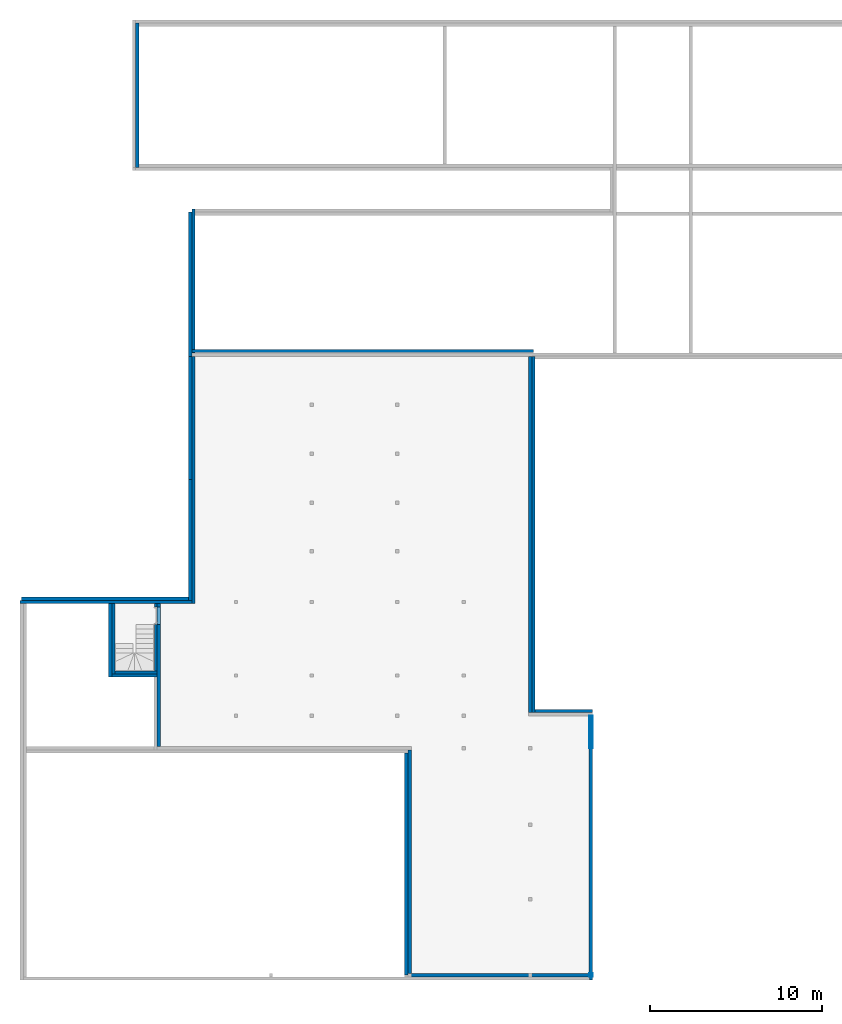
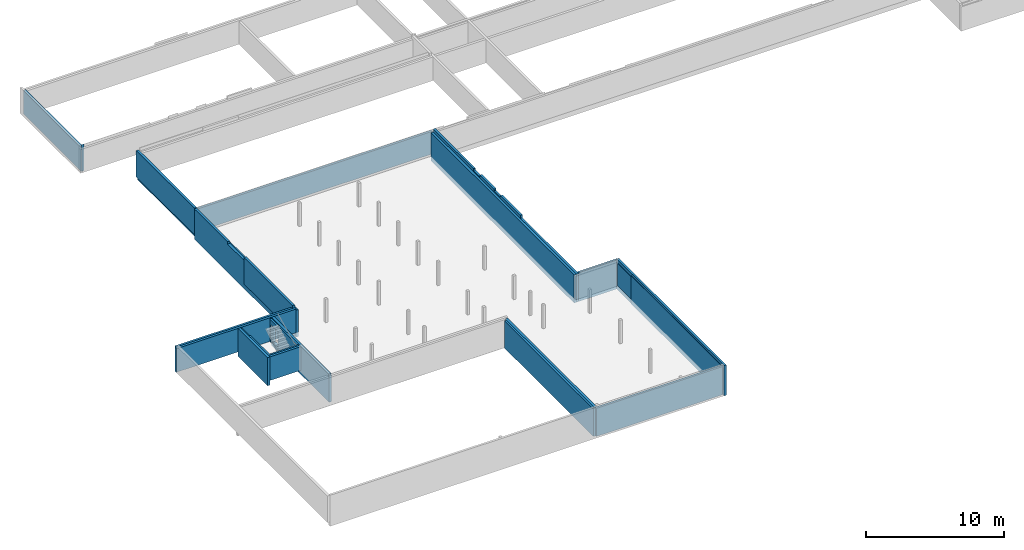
# One storey, part 2 of 6: 23 walls, 7 openings.
"""IFC2X3 building model written with IfcOpenShell, lengths in centimetres."""

from ifc_helpers import new_model, entity, si_unit, converted_unit, derived_unit, direction, frame, frame_2d, origin, place, context, subcontext, project, spatial, polyline, rectangle, extrude, clip, bounded_halfspace, faceted_brep, material, layer, layer_set, layer_usage, type_object, element, save


model = new_model("IFC2X3")

# Units and contexts
model_context = context("Model", 3, precision=0.001, world=origin(), true_north=direction((6.12303176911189e-17, 1.0)))
body_context = subcontext(model_context, "Body", "Model", "MODEL_VIEW")
ifc_project = project(units=[si_unit("LENGTHUNIT", "METRE", prefix="CENTI"), si_unit("AREAUNIT", "SQUARE_METRE"), si_unit("VOLUMEUNIT", "CUBIC_METRE"), converted_unit("PLANEANGLEUNIT", "DEGREE", entity("IfcRatioMeasure", 0.0174532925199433), si_unit("PLANEANGLEUNIT", "RADIAN"), dimensions=[0, 0, 0, 0, 0, 0, 0]), si_unit("MASSUNIT", "GRAM", prefix="KILO"), derived_unit("MASSDENSITYUNIT", [(si_unit("MASSUNIT", "GRAM", prefix="KILO"), 1), (si_unit("LENGTHUNIT", "METRE"), -3)]), si_unit("TIMEUNIT", "SECOND"), si_unit("FREQUENCYUNIT", "HERTZ"), si_unit("THERMODYNAMICTEMPERATUREUNIT", "DEGREE_CELSIUS"), derived_unit("THERMALTRANSMITTANCEUNIT", [(si_unit("MASSUNIT", "GRAM", prefix="KILO"), 1), (si_unit("THERMODYNAMICTEMPERATUREUNIT", "KELVIN"), -1), (si_unit("TIMEUNIT", "SECOND"), -3)]), derived_unit("VOLUMETRICFLOWRATEUNIT", [(si_unit("LENGTHUNIT", "METRE"), 3), (si_unit("TIMEUNIT", "SECOND"), -1)]), si_unit("ELECTRICCURRENTUNIT", "AMPERE"), si_unit("ELECTRICVOLTAGEUNIT", "VOLT"), si_unit("POWERUNIT", "WATT"), si_unit("FORCEUNIT", "NEWTON", prefix="KILO"), si_unit("ILLUMINANCEUNIT", "LUX"), si_unit("LUMINOUSFLUXUNIT", "LUMEN"), si_unit("LUMINOUSINTENSITYUNIT", "CANDELA"), derived_unit("USERDEFINED", [(si_unit("MASSUNIT", "GRAM", prefix="KILO"), -1), (si_unit("LENGTHUNIT", "METRE"), -2), (si_unit("TIMEUNIT", "SECOND"), 3), (si_unit("LUMINOUSFLUXUNIT", "LUMEN"), 1)]), derived_unit("LINEARVELOCITYUNIT", [(si_unit("LENGTHUNIT", "METRE"), 1), (si_unit("TIMEUNIT", "SECOND"), -1)]), si_unit("PRESSUREUNIT", "PASCAL"), derived_unit("USERDEFINED", [(si_unit("LENGTHUNIT", "METRE"), -2), (si_unit("MASSUNIT", "GRAM", prefix="KILO"), 1), (si_unit("TIMEUNIT", "SECOND"), -2)])], contexts=[model_context])

# Site, building, storey
site_placement = place(None, frame((-2781.94577612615, 7442.24238424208, 0.0)))
site = spatial("IfcSite", under=ifc_project, at=site_placement, Name="Default", CompositionType="ELEMENT")
building_placement = place(site_placement, origin())
building = spatial("IfcBuilding", under=site, at=building_placement, CompositionType="ELEMENT")
storey_placement = place(building_placement, frame((0.0, 0.0, -234.674140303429)))
storey = spatial("IfcBuildingStorey", under=building, at=storey_placement, Name="Vide Sanitaire", CompositionType="ELEMENT", Elevation=-234.674140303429)

# Wall
ifc_material_1 = material(Name="01 - Maçonnerie")
ifc_layer_1 = layer(ifc_material_1, 20.0)
ifc_layer_set_1 = layer_set([ifc_layer_1], Name="Mur de base:04 - Structure - béton - 20cm")
ifc_layer_usage_1 = layer_usage(ifc_layer_set_1, "AXIS2", "NEGATIVE", 10.0)
wall_type_1 = type_object("IfcWallType", Name="Mur de base:04 - Structure - béton - 20cm", PredefinedType="STANDARD", material=ifc_layer_set_1)
wall_1_placement = place(storey_placement, frame((-8911.93218005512, -1931.38903364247, -40.0), z_axis=(0.0, 0.0, 1.0), x_axis=(0.0, -1.0, 0.0)))
element("IfcWallStandardCase", 1, at=wall_1_placement, inside=storey, type_object=wall_type_1, material=ifc_layer_usage_1, Name="Mur de base:04 - Structure - béton - 20cm", ObjectType="Mur de base:04 - Structure - béton - 20cm", context=body_context, shape_type="Clipping", body=[
    clip(extrude(rectangle(XDim=2074.89, YDim=19.9999999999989, at=frame_2d((1037.445, -3.99680288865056e-14), x_axis=(-1.0, 0.0))), origin(), (0.0, 0.0, 1.0), 248.674140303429), bounded_halfspace(frame((1259.68999999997, -10.0, 248.674140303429), z_axis=(0.0, 0.0, -1.0), x_axis=(1.0, 0.0, 0.0)), True, frame((1259.68999999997, -10.0, 248.674140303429)), polyline([(0.0, 0.0), (815.200000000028, 0.0), (815.200000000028, 20.0), (0.0, 20.0), (0.0, 0.0)]))),
])

# Wall, opening
ifc_layer_usage_2 = layer_usage(ifc_layer_set_1, "AXIS2", "NEGATIVE", 10.0)
wall_2_placement = place(storey_placement, frame((-8558.98738089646, -4026.27903364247, 0.0), z_axis=(0.0, 0.0, 1.0), x_axis=(0.0, -1.0, 0.0)))
wall_2 = element("IfcWallStandardCase", 2, at=wall_2_placement, inside=storey, type_object=wall_type_1, material=ifc_layer_usage_2, Name="Mur de base:04 - Structure - béton - 20cm", ObjectType="Mur de base:04 - Structure - béton - 20cm", context=body_context, shape_type="SweptSolid", body=[
    extrude(rectangle(XDim=1520.22270076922, YDim=19.9999999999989, at=frame_2d((760.111350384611, -3.81916720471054e-14), x_axis=(-1.0, 0.0))), origin(), (0.0, 0.0, 1.0), 199.674140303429),
])
opening_1_placement = place(storey_placement, frame((-8558.98738089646, -4026.27903364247, 0.0), z_axis=(0.0, 0.0, 1.0), x_axis=(0.0, -1.0, 0.0)))
element("IfcOpeningElement", 3, at=opening_1_placement, cuts=wall_2, Name="Mur de base:04 - Structure - béton - 20cm:1", ObjectType="Opening", context=body_context, shape_type="SweptSolid", body=[
    extrude(rectangle(XDim=199.674140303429, YDim=20.0000000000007, at=frame_2d((0.0, 8.66862137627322e-13), x_axis=(1.0, 0.0))), frame((1500.22270076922, 0.0, 99.8370701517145), z_axis=(-1.0, 0.0, 0.0), x_axis=(0.0, 0.0, 1.0)), (0.0, 0.0, 1.0), 1311.00146098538),
])

# Walls
ifc_layer_usage_3 = layer_usage(ifc_layer_set_1, "AXIS2", "NEGATIVE", 10.0)
wall_3_placement = place(storey_placement, frame((-8568.98738089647, -5536.50173441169, -40.0), z_axis=(0.0, 0.0, 1.0), x_axis=(-1.0, 0.0, 0.0)))
element("IfcWallStandardCase", 4, at=wall_3_placement, inside=storey, type_object=wall_type_1, material=ifc_layer_usage_3, Name="Mur de base:04 - Structure - béton - 20cm", ObjectType="Mur de base:04 - Structure - béton - 20cm", context=body_context, shape_type="Clipping", body=[
    clip(extrude(rectangle(XDim=1055.9999999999, YDim=20.0000000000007, at=frame_2d((527.999999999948, -7.8159700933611e-14), x_axis=(-1.0, 0.0))), origin(), (0.0, 0.0, 1.0), 248.674140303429), bounded_halfspace(frame((0.0, -10.0, 248.674140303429), z_axis=(0.0, 0.0, -1.0), x_axis=(0.0, 1.0, 0.0)), True, frame((0.0, -10.0, 248.674140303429), z_axis=(0.0, 0.0, -1.0), x_axis=(0.0, 1.0, 0.0)), polyline([(0.0, 0.0), (20.0, 0.0), (20.0, 1056.0), (0.0, 1056.0), (0.0, 0.0)]))),
])
ifc_layer_usage_4 = layer_usage(ifc_layer_set_1, "AXIS2", "NEGATIVE", 10.0)
wall_4_placement = place(storey_placement, frame((-11884.3505746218, -3362.52180651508, 0.0)))
element("IfcWallStandardCase", 5, at=wall_4_placement, inside=storey, type_object=wall_type_1, material=ifc_layer_usage_4, Name="Mur de base:04 - Structure - béton - 20cm", ObjectType="Mur de base:04 - Structure - béton - 20cm", context=body_context, shape_type="Clipping", body=[
    clip(extrude(rectangle(XDim=1002.73752697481, YDim=19.9999999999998, at=frame_2d((501.368763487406, 4.52970994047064e-14), x_axis=(-1.0, 0.0))), origin(), (0.0, 0.0, 1.0), 208.674140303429), bounded_halfspace(frame((20.0, -10.0, 208.674140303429), z_axis=(0.0, 0.0, -1.0), x_axis=(0.0, -1.0, 0.0)), True, frame((20.0, -10.0, 208.674140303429)), polyline([(0.0, 0.0), (18.0, 0.0), (496.867766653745, 0.0), (516.867766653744, 0.0), (532.167766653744, 0.0), (762.167766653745, 0.0), (777.467766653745, 0.0), (797.467766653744, 0.0), (982.737526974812, 0.0), (982.737526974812, 20.0), (0.0, 20.0), (0.0, 0.0)]))),
])
ifc_layer_usage_5 = layer_usage(ifc_layer_set_1, "AXIS2", "NEGATIVE", 10.0)
wall_5_placement = place(storey_placement, frame((-10891.6130476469, -3352.52180651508, 0.0), z_axis=(0.0, 0.0, 1.0), x_axis=(0.0, 1.0, 0.0)))
element("IfcWallStandardCase", 6, at=wall_5_placement, inside=storey, type_object=wall_type_1, material=ifc_layer_usage_5, Name="Mur de base:04 - Structure - béton - 20cm", ObjectType="Mur de base:04 - Structure - béton - 20cm", context=body_context, shape_type="SweptSolid", body=[
    extrude(rectangle(XDim=702.742772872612, YDim=19.9999999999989, at=frame_2d((351.371386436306, -2.1405099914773e-13), x_axis=(-1.0, 0.0))), origin(), (0.0, 0.0, 1.0), 234.674140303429),
])
ifc_layer_usage_6 = layer_usage(ifc_layer_set_1, "AXIS2", "NEGATIVE", 10.0)
wall_6_placement = place(storey_placement, frame((-11200.6616968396, -830.048500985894, 0.0), z_axis=(0.0, 0.0, 1.0), x_axis=(0.0, 1.0, 0.0)))
element("IfcWallStandardCase", 7, at=wall_6_placement, inside=storey, type_object=wall_type_1, material=ifc_layer_usage_6, Name="Mur de base:04 - Structure - béton - 20cm", ObjectType="Mur de base:04 - Structure - béton - 20cm", context=body_context, shape_type="Clipping", body=[
    clip(clip(extrude(rectangle(XDim=840.048500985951, YDim=19.9999999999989, at=frame_2d((420.024250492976, 2.1316282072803e-14), x_axis=(-1.0, 0.0))), origin(), (0.0, 0.0, 1.0), 234.674140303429), bounded_halfspace(frame((1.3100000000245, 10.0, 208.674140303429), z_axis=(0.0, 0.0, -1.0), x_axis=(-1.0, 0.0, 0.0)), True, frame((1.3100000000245, 10.0, 208.674140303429), z_axis=(0.0, 0.0, -1.0), x_axis=(-1.0, 0.0, 0.0)), polyline([(0.0, 0.0), (-115.54850098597, 0.0), (-358.548500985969, 0.0), (-420.02425049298, 0.0), (-571.02425049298, 0.0), (-838.738500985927, 0.0), (-838.738500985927, -20.0), (-818.738500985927, -20.0), (-18.6899999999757, -20.0), (0.0, -20.0), (0.0, 0.0)]))), bounded_halfspace(frame((1.31000000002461, -10.0, 208.674140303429), z_axis=(-1.0, 0.0, 0.0), x_axis=(0.0, 0.0, 1.0)), True, frame((1.31000000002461, -10.0, 208.674140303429), z_axis=(-1.0, 0.0, 0.0), x_axis=(0.0, 0.0, 1.0)), polyline([(0.0, 0.0), (26.0, 0.0), (26.0, 20.0), (0.0, 20.0), (0.0, 0.0)]))),
])
ifc_layer_usage_7 = layer_usage(ifc_layer_set_1, "AXIS2", "NEGATIVE", 10.0)
wall_7_placement = place(storey_placement, frame((-11357.482807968, -3800.7196611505, -40.0), z_axis=(0.0, 0.0, 1.0), x_axis=(0.0, 1.0, 0.0)))
element("IfcWallStandardCase", 8, at=wall_7_placement, inside=storey, type_object=wall_type_1, material=ifc_layer_usage_7, Name="Mur de base:04 - Structure - béton - 20cm", ObjectType="Mur de base:04 - Structure - béton - 20cm", context=body_context, shape_type="Clipping", body=[
    clip(extrude(rectangle(XDim=428.197854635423, YDim=19.9999999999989, at=frame_2d((214.098927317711, 0.0), x_axis=(-1.0, 0.0))), origin(), (0.0, 0.0, 1.0), 248.674140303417), bounded_halfspace(frame((0.0, -10.0, 248.674140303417), z_axis=(0.0, 0.0, -1.0), x_axis=(-1.0, 0.0, 0.0)), True, frame((0.0, -10.0, 248.674140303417)), polyline([(0.0, 0.0), (20.0, 0.0), (428.197854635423, 0.0), (428.197854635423, 20.0), (0.0, 20.0), (0.0, 0.0)]))),
])
ifc_layer_usage_8 = layer_usage(ifc_layer_set_1, "AXIS2", "NEGATIVE", 10.0)
wall_8_placement = place(storey_placement, frame((-11086.882807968, -3790.7196611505, 0.0), z_axis=(0.0, 0.0, 1.0), x_axis=(-1.0, 0.0, 0.0)))
element("IfcWallStandardCase", 9, at=wall_8_placement, inside=storey, type_object=wall_type_1, material=ifc_layer_usage_8, Name="Mur de base:04 - Structure - béton - 20cm", ObjectType="Mur de base:04 - Structure - béton - 20cm", context=body_context, shape_type="Clipping", body=[
    clip(extrude(rectangle(XDim=260.599999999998, YDim=19.9999999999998, at=frame_2d((130.299999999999, -3.01980662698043e-14), x_axis=(-1.0, 0.0))), origin(), (0.0, 0.0, 1.0), 208.674140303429), bounded_halfspace(frame((0.0, -10.0, 208.674140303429), z_axis=(0.0, 0.0, -1.0), x_axis=(0.0, 1.0, 0.0)), True, frame((0.0, -10.0, 208.674140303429)), polyline([(0.0, 0.0), (260.599999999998, 0.0), (260.599999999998, 20.0), (0.0, 20.0), (0.0, 0.0)]))),
])

# Wall, opening
ifc_layer_usage_9 = layer_usage(ifc_layer_set_1, "AXIS2", "NEGATIVE", 10.0)
wall_9_placement = place(storey_placement, frame((-11076.882807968, -3372.52180651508, -40.0), z_axis=(0.0, 0.0, 1.0), x_axis=(0.0, -1.0, 0.0)))
wall_9 = element("IfcWallStandardCase", 10, at=wall_9_placement, inside=storey, type_object=wall_type_1, material=ifc_layer_usage_9, Name="Mur de base:04 - Structure - béton - 20cm", ObjectType="Mur de base:04 - Structure - béton - 20cm", context=body_context, shape_type="Clipping", body=[
    clip(clip(extrude(rectangle(XDim=832.978466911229, YDim=19.9999999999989, at=frame_2d((416.489233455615, 0.0), x_axis=(-1.0, 0.0))), origin(), (0.0, 0.0, 1.0), 248.674140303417), bounded_halfspace(frame((0.0, -10.0, 248.674140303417), z_axis=(0.0, 0.0, -1.0), x_axis=(1.0, 0.0, 0.0)), True, frame((0.0, -10.0, 248.674140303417)), polyline([(0.0, 0.0), (119.897854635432, 0.0), (392.897854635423, 0.0), (408.197854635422, 0.0), (428.197854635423, 0.0), (832.978466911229, 0.0), (832.978466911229, 20.0), (0.0, 20.0), (0.0, 0.0)]))), bounded_halfspace(frame((120.0, 10.0, 24.6741403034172), z_axis=(1.0, 0.0, 0.0), x_axis=(0.0, 0.0, 1.0)), True, frame((120.0, 10.0, 24.6741403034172), z_axis=(1.0, 0.0, 0.0), x_axis=(0.0, 0.0, 1.0)), polyline([(0.0, 0.0), (15.0, 0.0), (15.0, 20.0), (0.0, 20.0), (0.0, 0.0)]))),
])
opening_2_placement = place(wall_9_placement, origin())
element("IfcOpeningElement", 11, at=opening_2_placement, cuts=wall_9, Name="Mur de base:04 - Structure - béton - 20cm", ObjectType="Opening", context=body_context, shape_type="SweptSolid", body=[
    extrude(rectangle(XDim=158.500000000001, YDim=99.9999999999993, at=frame_2d((0.0, 2.16715534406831e-13), x_axis=(1.0, 0.0))), frame((70.0, -162.399999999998, 119.249999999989), z_axis=(0.0, 1.0, 0.0), x_axis=(0.0, 0.0, 1.0)), (0.0, 0.0, 1.0), 304.8),
])

# Walls
ifc_layer_usage_10 = layer_usage(ifc_layer_set_1, "AXIS2", "NEGATIVE", 10.0)
wall_10_placement = place(storey_placement, frame((-10891.6130476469, -1932.0, 0.0), z_axis=(0.0, 0.0, 1.0), x_axis=(0.0, 1.0, 0.0)))
element("IfcWallStandardCase", 12, at=wall_10_placement, inside=storey, type_object=wall_type_1, material=ifc_layer_usage_10, Name="Mur de base:04 - Structure - béton - 20cm", ObjectType="Mur de base:04 - Structure - béton - 20cm", context=body_context, shape_type="Clipping", body=[
    clip(clip(extrude(rectangle(XDim=841.999999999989, YDim=19.9999999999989, at=frame_2d((420.999999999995, 1.86517468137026e-14), x_axis=(-1.0, 0.0))), origin(), (0.0, 0.0, 1.0), 234.674140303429), bounded_halfspace(frame((0.610966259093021, 10.0, 228.674140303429), z_axis=(0.0, 0.0, 1.0), x_axis=(0.0, 1.0, 0.0)), True, frame((0.610966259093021, 10.0, 228.674140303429), z_axis=(0.0, 0.0, 1.0), x_axis=(0.0, 1.0, 0.0)), polyline([(0.0, 0.0), (0.0, 0.610966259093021), (-20.0, 0.610966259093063), (-20.0, 0.0), (0.0, 0.0)]))), bounded_halfspace(frame((0.610966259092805, -10.0, 228.674140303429), z_axis=(-1.0, 0.0, 0.0), x_axis=(0.0, -1.0, 0.0)), False, frame((0.610966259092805, -10.0, 228.674140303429), z_axis=(-1.0, 0.0, 0.0), x_axis=(0.0, -1.0, 0.0)), polyline([(0.0, 0.0), (-20.0, 0.0), (-20.0, -228.674140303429), (0.0, -228.674140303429), (0.0, -20.0), (0.0, 0.0)]))),
])
ifc_layer_usage_11 = layer_usage(ifc_layer_set_1, "AXIS2", "NEGATIVE", 10.0)
wall_11_placement = place(storey_placement, frame((-9614.98738089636, -4225.50027342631, -40.0), z_axis=(0.0, 0.0, 1.0), x_axis=(0.0, -1.0, 0.0)))
element("IfcWallStandardCase", 13, at=wall_11_placement, inside=storey, type_object=wall_type_1, material=ifc_layer_usage_11, Name="Mur de base:04 - Structure - béton - 20cm", ObjectType="Mur de base:04 - Structure - béton - 20cm", context=body_context, shape_type="Clipping", body=[
    clip(extrude(rectangle(XDim=1301.00146098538, YDim=19.9999999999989, at=frame_2d((650.500730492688, -1.58095758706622e-13), x_axis=(-1.0, 0.0))), origin(), (0.0, 0.0, 1.0), 239.674140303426), bounded_halfspace(frame((0.0, -10.0, 239.674140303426), z_axis=(0.0, 0.0, -1.0), x_axis=(1.0, 0.0, 0.0)), True, frame((0.0, -10.0, 239.674140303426), z_axis=(0.0, 0.0, -1.0), x_axis=(1.0, 0.0, 0.0)), polyline([(0.0, 0.0), (0.0, -20.0), (1301.00146098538, -20.0), (1301.00146098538, 0.0), (0.0, 0.0)]))),
])
ifc_layer_usage_12 = layer_usage(ifc_layer_set_1, "AXIS2", "NEGATIVE", 10.0)
wall_12_placement = place(storey_placement, frame((-10891.6130476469, -3352.52180651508, -40.0), z_axis=(0.0, 0.0, 1.0), x_axis=(0.0, 1.0, 0.0)))
element("IfcWallStandardCase", 14, at=wall_12_placement, inside=storey, type_object=wall_type_1, material=ifc_layer_usage_12, Name="Mur de base:04 - Structure - béton - 20cm", ObjectType="Mur de base:04 - Structure - béton - 20cm", context=body_context, shape_type="Clipping", body=[
    clip(extrude(rectangle(XDim=1421.13277287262, YDim=19.9999999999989, at=frame_2d((710.566386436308, -8.88178419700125e-16), x_axis=(-1.0, 0.0))), origin(), (0.0, 0.0, 1.0), 268.674140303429), bounded_halfspace(frame((704.05277287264, 10.0, 248.674140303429), z_axis=(0.0, 0.0, -1.0), x_axis=(-1.0, 0.0, 0.0)), True, frame((704.05277287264, 10.0, 248.674140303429), z_axis=(0.0, 0.0, -1.0), x_axis=(-1.0, 0.0, 0.0)), polyline([(0.0, 0.0), (-235.940000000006, 0.0), (-235.940000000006, -20.0), (0.0, -20.0), (0.0, 0.0)]))),
])
ifc_layer_usage_13 = layer_usage(ifc_layer_set_1, "AXIS2", "NEGATIVE", 10.0)
wall_13_placement = place(storey_placement, frame((-8558.98738089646, -4215.50027342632, -40.0), z_axis=(0.0, 0.0, 1.0), x_axis=(0.0, -1.0, 0.0)))
element("IfcWallStandardCase", 15, at=wall_13_placement, inside=storey, type_object=wall_type_1, material=ifc_layer_usage_13, Name="Mur de base:04 - Structure - béton - 20cm", ObjectType="Mur de base:04 - Structure - béton - 20cm", context=body_context, shape_type="Clipping", body=[
    clip(extrude(rectangle(XDim=1311.00146098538, YDim=19.9999999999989, at=frame_2d((655.500730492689, -1.52766688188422e-13), x_axis=(-1.0, 0.0))), origin(), (0.0, 0.0, 1.0), 248.674140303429), bounded_halfspace(frame((0.0, -10.0, 248.674140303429), z_axis=(0.0, 0.0, -1.0), x_axis=(1.0, 0.0, 0.0)), True, frame((0.0, -10.0, 248.674140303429)), polyline([(0.0, 0.0), (1311.00146098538, 0.0), (1311.00146098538, 20.0), (687.001460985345, 20.0), (0.0, 20.0), (0.0, 0.0)]))),
])

# Wall, openings
ifc_material_2 = material(Name="00 - Isolant")
ifc_layer_2 = layer(ifc_material_2, 18.0)
ifc_layer_set_2 = layer_set([ifc_layer_2], Name="Mur de base:04 - Parement - ITE 18 - isolation enterrée")
ifc_layer_usage_14 = layer_usage(ifc_layer_set_2, "AXIS2", "NEGATIVE", 9.0)
wall_type_2 = type_object("IfcWallType", Name="Mur de base:04 - Parement - ITE 18 - isolation enterrée", PredefinedType="STANDARD", material=ifc_layer_set_2)
wall_14_placement = place(storey_placement, frame((-8892.93218005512, -1931.38903364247, -40.0), z_axis=(0.0, 0.0, 1.0), x_axis=(0.0, -1.0, 0.0)))
wall_14 = element("IfcWallStandardCase", 16, at=wall_14_placement, inside=storey, type_object=wall_type_2, material=ifc_layer_usage_14, Name="Mur de base:04 - Parement - ITE 18 - isolation enterrée", ObjectType="Mur de base:04 - Parement - ITE 18 - isolation enterrée", context=body_context, shape_type="Clipping", body=[
    clip(clip(extrude(rectangle(XDim=2074.89, YDim=17.9999999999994, at=frame_2d((1037.445, -2.39808173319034e-14), x_axis=(-1.0, 0.0))), origin(), (0.0, 0.0, 1.0), 274.674140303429), bounded_halfspace(frame((1259.68999999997, 9.0, 248.674140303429), z_axis=(0.0, 0.0, -1.0), x_axis=(1.0, 0.0, 0.0)), True, frame((1259.68999999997, 9.0, 248.674140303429), z_axis=(0.0, 0.0, -1.0), x_axis=(1.0, 0.0, 0.0)), polyline([(0.0, 0.0), (815.200000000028, 0.0), (815.200000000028, 18.0), (0.0, 18.0), (0.0, 0.0)]))), bounded_halfspace(frame((1259.68999999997, -9.0, 248.674140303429), z_axis=(-1.0, 0.0, 0.0), x_axis=(0.0, 0.0, 1.0)), True, frame((1259.68999999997, -9.0, 248.674140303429), z_axis=(-1.0, 0.0, 0.0), x_axis=(0.0, 0.0, 1.0)), polyline([(0.0, 0.0), (26.0, 0.0), (26.0, 18.0), (0.0, 18.0), (0.0, 0.0)]))),
])
opening_3_placement = place(wall_14_placement, frame((673.689999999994, -50.2000000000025, 259.674140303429)))
element("IfcOpeningElement", 17, at=opening_3_placement, cuts=wall_14, Name="Mur de base:04 - Parement - ITE 18 - isolation enterrée", ObjectType="Opening", context=body_context, shape_type="Brep", body=[
    faceted_brep([(-91.0, 61.3000000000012, 273.0), (-2.0, 61.3000000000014, 273.0), (-2.0, 61.3000000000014, 0.0), (-91.0, 61.3000000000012, 0.0), (-91.0, 60.0, 0.0), (-91.0, 60.0, 273.0), (-2.0, 60.0, 0.0), (0.0, 60.0, 0.0), (0.0, 0.0, 0.0), (-93.0, 0.0, 0.0), (-93.0, 60.0, 0.0), (-2.0, 60.0, 273.0), (0.0, 0.0, 275.0), (-93.0, 0.0, 275.0), (0.0, 60.0, 275.0), (-93.0, 60.0, 275.0)], [[[0, 1, 2, 3]], [[3, 4, 5, 0]], [[2, 6, 7, 8, 9, 10, 4, 3]], [[1, 11, 6, 2]], [[0, 5, 11, 1]], [[12, 13, 9, 8]], [[14, 7, 6, 11, 5, 4, 10, 15]], [[8, 7, 14, 12]], [[13, 15, 10, 9]], [[12, 14, 15, 13]]]),
])
opening_4_placement = place(wall_14_placement, frame((971.690000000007, -50.2000000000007, 259.674140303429)))
element("IfcOpeningElement", 18, at=opening_4_placement, cuts=wall_14, Name="Mur de base:04 - Parement - ITE 18 - isolation enterrée", ObjectType="Opening", context=body_context, shape_type="Brep", body=[
    faceted_brep([(-2.0, 61.2999999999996, 273.0), (-2.0, 61.2999999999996, 0.0), (-91.0, 61.2999999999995, 0.0), (-91.0, 61.2999999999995, 273.0), (-2.0, 60.0, 273.0), (-2.0, 60.0, 0.0), (0.0, 60.0, 0.0), (0.0, 0.0, 0.0), (-93.0, 0.0, 0.0), (-93.0, 60.0, 0.0), (-91.0, 60.0, 0.0), (-91.0, 60.0, 273.0), (-93.0, 0.0, 275.0), (0.0, 0.0, 275.0), (-93.0, 60.0, 275.0), (0.0, 60.0, 275.0)], [[[0, 1, 2, 3]], [[1, 0, 4, 5]], [[2, 1, 5, 6, 7, 8, 9, 10]], [[3, 2, 10, 11]], [[0, 3, 11, 4]], [[12, 8, 7, 13]], [[14, 15, 6, 5, 4, 11, 10, 9]], [[8, 12, 14, 9]], [[13, 7, 6, 15]], [[12, 13, 15, 14]]]),
])
opening_5_placement = place(wall_14_placement, origin())
element("IfcOpeningElement", 19, at=opening_5_placement, cuts=wall_14, Name="Mur de base:04 - Parement - ITE 18 - isolation enterrée", ObjectType="Opening", context=body_context, shape_type="SweptSolid", body=[
    extrude(rectangle(XDim=328.0, YDim=154.999999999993, at=frame_2d((2.20268248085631e-13, -1.4210854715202e-14), x_axis=(0.0, 1.0))), frame((1511.88277287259, -50.2000000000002, 423.674140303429), z_axis=(0.0, 1.0, 0.0), x_axis=(1.0, 0.0, 0.0)), (0.0, 0.0, 1.0), 61.2999999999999),
])

# Walls
ifc_layer_usage_15 = layer_usage(ifc_layer_set_2, "AXIS2", "NEGATIVE", 9.0)
wall_15_placement = place(storey_placement, frame((-8883.93218005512, -3997.27903364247, -40.0)))
element("IfcWallStandardCase", 20, at=wall_15_placement, inside=storey, type_object=wall_type_2, material=ifc_layer_usage_15, Name="Mur de base:04 - Parement - ITE 18 - isolation enterrée", ObjectType="Mur de base:04 - Parement - ITE 18 - isolation enterrée", context=body_context, shape_type="SweptSolid", body=[
    extrude(rectangle(XDim=334.944799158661, YDim=17.9999999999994, at=frame_2d((167.47239957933, -3.28626015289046e-14), x_axis=(-1.0, 0.0))), origin(), (0.0, 0.0, 1.0), 254.674140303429),
])
ifc_layer_usage_16 = layer_usage(ifc_layer_set_2, "AXIS2", "NEGATIVE", 9.0)
wall_16_placement = place(storey_placement, frame((-8557.98738089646, -4006.27903364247, -40.0), z_axis=(0.0, 0.0, 1.0), x_axis=(0.0, -1.0, 0.0)))
element("IfcWallStandardCase", 21, at=wall_16_placement, inside=storey, type_object=wall_type_2, material=ifc_layer_usage_16, Name="Mur de base:04 - Parement - ITE 18 - isolation enterrée", ObjectType="Mur de base:04 - Parement - ITE 18 - isolation enterrée", context=body_context, shape_type="SweptSolid", body=[
    extrude(rectangle(XDim=1558.22270076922, YDim=17.9999999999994, at=frame_2d((779.11135038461, 2.75335310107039e-14), x_axis=(-1.0, 0.0))), origin(), (0.0, 0.0, 1.0), 268.674140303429),
])
ifc_layer_usage_17 = layer_usage(ifc_layer_set_2, "AXIS2", "NEGATIVE", 9.0)
wall_17_placement = place(storey_placement, frame((-11874.3505746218, -3343.52180651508, 0.0)))
element("IfcWallStandardCase", 22, at=wall_17_placement, inside=storey, type_object=wall_type_2, material=ifc_layer_usage_17, Name="Mur de base:04 - Parement - ITE 18 - isolation enterrée", ObjectType="Mur de base:04 - Parement - ITE 18 - isolation enterrée", context=body_context, shape_type="SweptSolid", body=[
    extrude(rectangle(XDim=972.737526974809, YDim=18.0000000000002, at=frame_2d((486.368763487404, -1.77635683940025e-15), x_axis=(-1.0, 0.0))), origin(), (0.0, 0.0, 1.0), 208.674140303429),
])

# Wall, opening
ifc_layer_usage_18 = layer_usage(ifc_layer_set_2, "AXIS2", "NEGATIVE", 9.0)
wall_18_placement = place(storey_placement, frame((-10872.6130476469, -3372.52180651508, -40.0), z_axis=(0.0, 0.0, 1.0), x_axis=(0.0, 1.0, 0.0)))
wall_18 = element("IfcWallStandardCase", 23, at=wall_18_placement, inside=storey, type_object=wall_type_2, material=ifc_layer_usage_18, Name="Mur de base:04 - Parement - ITE 18 - isolation enterrée", ObjectType="Mur de base:04 - Parement - ITE 18 - isolation enterrée", context=body_context, shape_type="Clipping", body=[
    clip(extrude(rectangle(XDim=2300.52180661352, YDim=17.9999999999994, at=frame_2d((1150.26090330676, -8.88178419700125e-16), x_axis=(-1.0, 0.0))), origin(), (0.0, 0.0, 1.0), 239.674140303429), bounded_halfspace(frame((1480.44277287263, -9.0, 40.0), z_axis=(0.0, 0.0, -1.0), x_axis=(-1.0, 0.0, 0.0)), True, frame((1480.44277287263, -9.0, 40.0), z_axis=(0.0, 0.0, -1.0), x_axis=(-1.0, 0.0, 0.0)), polyline([(0.0, 0.0), (18.0, 0.0), (18.0, 18.0), (0.0, 18.0), (0.0, 0.0)]))),
])
opening_6_placement = place(storey_placement, frame((-10872.6130476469, -3372.52180651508, -40.0), z_axis=(0.0, 0.0, 1.0), x_axis=(0.0, 1.0, 0.0)))
element("IfcOpeningElement", 24, at=opening_6_placement, cuts=wall_18, Name="Mur de base:04 - Parement - ITE 18 - isolation enterrée:1", ObjectType="Opening", context=body_context, shape_type="SweptSolid", body=[
    extrude(rectangle(XDim=239.674140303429, YDim=17.9999999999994, at=frame_2d((-2.8421709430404e-14, 0.0), x_axis=(1.0, 0.0))), frame((1441.13277287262, 0.0, 119.837070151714), z_axis=(1.0, 0.0, 0.0), x_axis=(0.0, 0.0, -1.0)), (0.0, 0.0, 1.0), 20.0),
])

# Walls
ifc_layer_usage_19 = layer_usage(ifc_layer_set_2, "AXIS2", "NEGATIVE", 9.0)
wall_19_placement = place(storey_placement, frame((-9633.98738089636, -4243.50027342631, -40.0), z_axis=(0.0, 0.0, 1.0), x_axis=(0.0, -1.0, 0.0)))
element("IfcWallStandardCase", 25, at=wall_19_placement, inside=storey, type_object=wall_type_2, material=ifc_layer_usage_19, Name="Mur de base:04 - Parement - ITE 18 - isolation enterrée", ObjectType="Mur de base:04 - Parement - ITE 18 - isolation enterrée", context=body_context, shape_type="Clipping", body=[
    clip(clip(clip(extrude(rectangle(XDim=1293.00146098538, YDim=17.9999999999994, at=frame_2d((646.500730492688, -1.61648472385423e-13), x_axis=(-1.0, 0.0))), origin(), (0.0, 0.0, 1.0), 248.674140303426), bounded_halfspace(frame((1293.00146098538, -9.0, 248.674140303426), z_axis=(0.0, 0.0, -1.0), x_axis=(1.0, 0.0, 0.0)), True, frame((1293.00146098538, -9.0, 248.674140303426)), polyline([(0.0, 0.0), (0.0, 18.0), (-10.0, 18.0), (-10.0, 0.0), (0.0, 0.0)]))), bounded_halfspace(frame((1283.00146098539, -9.0, 239.674140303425), z_axis=(0.0, 0.0, -1.0), x_axis=(1.0, 0.0, 0.0)), True, frame((1283.00146098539, -9.0, 239.674140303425), z_axis=(0.0, 0.0, -1.0), x_axis=(1.0, 0.0, 0.0)), polyline([(0.0, 0.0), (-1283.00146098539, 0.0), (-1283.00146098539, -18.0), (0.0, -18.0), (0.0, 0.0)]))), bounded_halfspace(frame((1283.00146098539, 9.0, 239.674140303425), z_axis=(1.0, 0.0, 0.0), x_axis=(0.0, 0.0, 1.0)), True, frame((1283.00146098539, 9.0, 239.674140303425), z_axis=(1.0, 0.0, 0.0), x_axis=(0.0, 0.0, 1.0)), polyline([(0.0, 0.0), (9.0, 0.0), (9.0, 18.0), (0.0, 18.0), (0.0, 0.0)]))),
])
ifc_layer_usage_20 = layer_usage(ifc_layer_set_2, "AXIS2", "NEGATIVE", 9.0)
wall_20_placement = place(storey_placement, frame((-8892.93218005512, -1901.07903364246, 0.0), z_axis=(0.0, 0.0, 1.0), x_axis=(-1.0, 0.0, 0.0)))
element("IfcWallStandardCase", 26, at=wall_20_placement, inside=storey, type_object=wall_type_2, material=ifc_layer_usage_20, Name="Mur de base:04 - Parement - ITE 18 - isolation enterrée", ObjectType="Mur de base:04 - Parement - ITE 18 - isolation enterrée", context=body_context, shape_type="SweptSolid", body=[
    extrude(rectangle(XDim=1988.68086759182, YDim=17.9999999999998, at=frame_2d((994.34043379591, 7.54951656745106e-14), x_axis=(-1.0, 0.0))), origin(), (0.0, 0.0, 1.0), 199.674140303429),
])
ifc_material_3 = material(Name="01 - Enduit/Plâtre")
ifc_layer_3 = layer(ifc_material_3, 1.3)
ifc_layer_4 = layer(ifc_material_2, 14.0)
ifc_layer_set_3 = layer_set([ifc_layer_3, ifc_layer_4], Name="Mur de base:04 - Parement - ITI 14cm")
ifc_layer_usage_21 = layer_usage(ifc_layer_set_3, "AXIS2", "NEGATIVE", 7.65)
wall_type_3 = type_object("IfcWallType", Name="Mur de base:04 - Parement - ITI 14cm", PredefinedType="STANDARD", material=ifc_layer_set_3)
wall_21_placement = place(storey_placement, frame((-11339.832807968, -3372.52180651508, 0.0), z_axis=(0.0, 0.0, 1.0), x_axis=(0.0, -1.0, 0.0)))
element("IfcWallStandardCase", 27, at=wall_21_placement, inside=storey, type_object=wall_type_3, material=ifc_layer_usage_21, Name="Mur de base:04 - Parement - ITI 14cm", ObjectType="Mur de base:04 - Parement - ITI 14cm", context=body_context, shape_type="Clipping", body=[
    clip(clip(clip(extrude(rectangle(XDim=408.197854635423, YDim=15.3000000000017, at=frame_2d((204.098927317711, 0.0), x_axis=(-1.0, 0.0))), origin(), (0.0, 0.0, 1.0), 208.674140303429), bounded_halfspace(frame((408.197854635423, -7.64999999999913, 208.674140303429), z_axis=(0.0, 0.0, -1.0), x_axis=(1.0, 0.0, 0.0)), True, frame((408.197854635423, -7.64999999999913, 208.674140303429)), polyline([(0.0, 0.0), (0.0, 15.3), (-15.3, 15.3), (-29.3000000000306, 15.3), (-288.299999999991, 15.3), (-288.299999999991, 0.0), (0.0, 0.0)]))), bounded_halfspace(frame((119.897854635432, -7.64999999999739, 199.674140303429), z_axis=(0.0, 0.0, -1.0), x_axis=(1.0, 0.0, 0.0)), True, frame((119.897854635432, -7.64999999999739, 199.674140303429), z_axis=(0.0, 0.0, -1.0), x_axis=(1.0, 0.0, 0.0)), polyline([(0.0, 0.0), (-119.897854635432, 0.0), (-119.897854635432, -15.2999999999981), (0.0, -15.2999999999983), (0.0, 0.0)]))), bounded_halfspace(frame((119.897854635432, 7.65000000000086, 199.674140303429), z_axis=(1.0, 0.0, 0.0), x_axis=(0.0, 0.0, 1.0)), True, frame((119.897854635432, 7.65000000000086, 199.674140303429), z_axis=(1.0, 0.0, 0.0), x_axis=(0.0, 0.0, 1.0)), polyline([(0.0, 0.0), (9.0, 0.0), (9.0, 15.3), (0.0, 15.2999999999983), (0.0, 0.0)]))),
])
ifc_layer_usage_22 = layer_usage(ifc_layer_set_3, "AXIS2", "NEGATIVE", 7.65)
wall_22_placement = place(storey_placement, frame((-11332.182807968, -3773.0696611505, 0.0)))
element("IfcWallStandardCase", 28, at=wall_22_placement, inside=storey, type_object=wall_type_3, material=ifc_layer_usage_22, Name="Mur de base:04 - Parement - ITI 14cm", ObjectType="Mur de base:04 - Parement - ITI 14cm", context=body_context, shape_type="Clipping", body=[
    clip(extrude(rectangle(XDim=245.300000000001, YDim=15.3, at=frame_2d((122.650000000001, 2.88657986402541e-14), x_axis=(-1.0, 0.0))), origin(), (0.0, 0.0, 1.0), 208.674140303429), bounded_halfspace(frame((0.0, -7.64999999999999, 208.674140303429), z_axis=(0.0, 0.0, -1.0), x_axis=(0.0, -1.0, 0.0)), True, frame((0.0, -7.64999999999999, 208.674140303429)), polyline([(0.0, 0.0), (245.300000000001, 0.0), (245.300000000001, 15.3000000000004), (230.0, 15.3), (0.0, 15.3), (0.0, 0.0)]))),
])

# Wall, opening
ifc_layer_usage_23 = layer_usage(ifc_layer_set_3, "AXIS2", "NEGATIVE", 7.65)
wall_23_placement = place(storey_placement, frame((-11094.532807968, -3765.4196611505, 0.0), z_axis=(0.0, 0.0, 1.0), x_axis=(0.0, 1.0, 0.0)))
wall_23 = element("IfcWallStandardCase", 29, at=wall_23_placement, inside=storey, type_object=wall_type_3, material=ifc_layer_usage_23, Name="Mur de base:04 - Parement - ITI 14cm", ObjectType="Mur de base:04 - Parement - ITI 14cm", context=body_context, shape_type="Clipping", body=[
    clip(clip(clip(extrude(rectangle(XDim=392.897854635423, YDim=15.3000000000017, at=frame_2d((196.448927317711, 0.0), x_axis=(-1.0, 0.0))), origin(), (0.0, 0.0, 1.0), 208.674140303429), bounded_halfspace(frame((0.0, 7.65000000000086, 208.674140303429), z_axis=(0.0, 0.0, -1.0), x_axis=(-1.0, 0.0, 0.0)), True, frame((0.0, 7.65000000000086, 208.674140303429)), polyline([(0.0, 0.0), (0.0, -15.3), (273.0, -15.3), (273.0, 0.0), (14.0, 0.0), (0.0, 0.0)]))), bounded_halfspace(frame((273.0, 7.65000000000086, 199.674140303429), z_axis=(0.0, 0.0, -1.0), x_axis=(-1.0, 0.0, 0.0)), True, frame((273.0, 7.65000000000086, 199.674140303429), z_axis=(0.0, 0.0, -1.0), x_axis=(-1.0, 0.0, 0.0)), polyline([(0.0, 0.0), (-119.897854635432, 0.0), (-119.897854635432, -15.2999999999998), (0.0, -15.2999999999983), (0.0, 0.0)]))), bounded_halfspace(frame((273.0, -7.64999999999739, 199.674140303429), z_axis=(-1.0, 0.0, 0.0), x_axis=(0.0, 0.0, 1.0)), True, frame((273.0, -7.64999999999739, 199.674140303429), z_axis=(-1.0, 0.0, 0.0), x_axis=(0.0, 0.0, 1.0)), polyline([(0.0, 0.0), (9.0, 0.0), (9.0, 15.2999999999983), (0.0, 15.2999999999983), (0.0, 0.0)]))),
])
opening_7_placement = place(wall_23_placement, frame((372.897854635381, 7.65, 0.0)))
element("IfcOpeningElement", 30, at=opening_7_placement, cuts=wall_23, Name="Int. Simple:PP EXT - Vide sanitaire  (0.93m x 1.80m):1", ObjectType="Opening", context=body_context, shape_type="SweptSolid", body=[
    extrude(rectangle(XDim=158.500000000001, YDim=99.9999999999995, at=frame_2d((79.2500000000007, 49.9999999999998), x_axis=(1.0, 0.0))), frame((0.0, 0.0, 0.0), z_axis=(0.0, -1.0, 0.0), x_axis=(0.0, 0.0, 1.0)), (0.0, 0.0, 1.0), 15.3),
])

save(model, "model.ifc")
